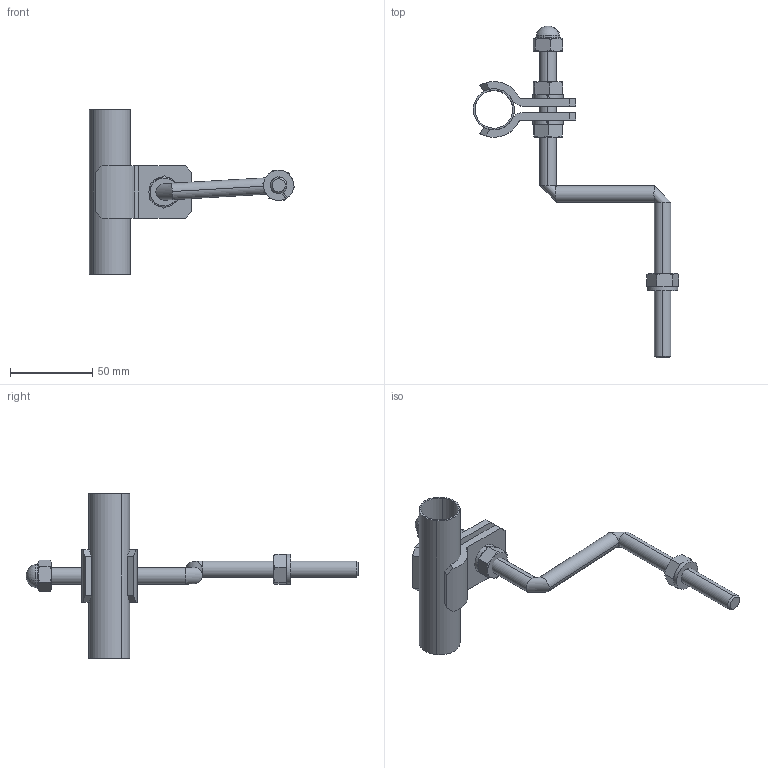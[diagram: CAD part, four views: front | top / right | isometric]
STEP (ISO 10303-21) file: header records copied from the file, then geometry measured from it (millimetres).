
FILE_DESCRIPTION (( 'STEP AP203' ), '1' );
FILE_NAME ('D型.STEP', '2024-02-01T01:54:36', ( '' ), ( '' ), 'SwSTEP 2.0', 'SolidWorks 2021', '' );
FILE_SCHEMA (( 'CONFIG_CONTROL_DESIGN' ));
Length unit declared in the file: millimetre
Products named in the file (1): D型
Bounding box: 125.09 x 202.38 x 100 mm (x, y, z)
Volume: 52780.6 mm3; surface area: 39568.7 mm2
Topology: 11 solids, 11 shells, 153 faces, 350 edges, 216 vertices
Faces by surface type: plane 69, cylinder 38, cone 38, torus 4, sphere 4
Entity records: 4529 total; most frequent: CARTESIAN_POINT 1110, DIRECTION 698, ORIENTED_EDGE 684, EDGE_CURVE 342, AXIS2_PLACEMENT_3D 282, VERTEX_POINT 214, EDGE_LOOP 168, ADVANCED_FACE 153
